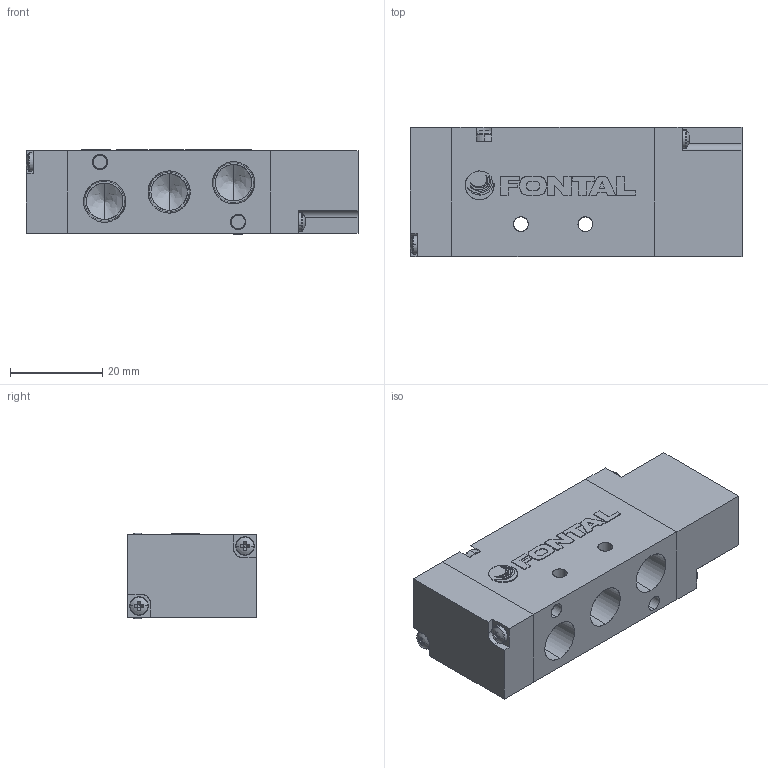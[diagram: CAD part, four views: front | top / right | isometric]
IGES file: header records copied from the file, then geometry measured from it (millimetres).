
Start section: SolidWorks IGES file using analytic representation for surfaces
Global section: file name: D:\Custom\3D繪製\VC\YC13\YCS2413-01.IGS,1; native system: 5HSolidWorks 2014; preprocessor: SolidWorks 2014; author: Chieh_Lu; date: 160114.021808; units: millimetre
Bounding box: 72.07 x 28 x 18.6 mm (x, y, z)
Surface area: 14051.6 mm2 (no closed solid volume)
Topology: 0 solids, 0 shells, 451 faces, 4390 edges, 4368 vertices
Faces by surface type: bspline 269, revolution 182
